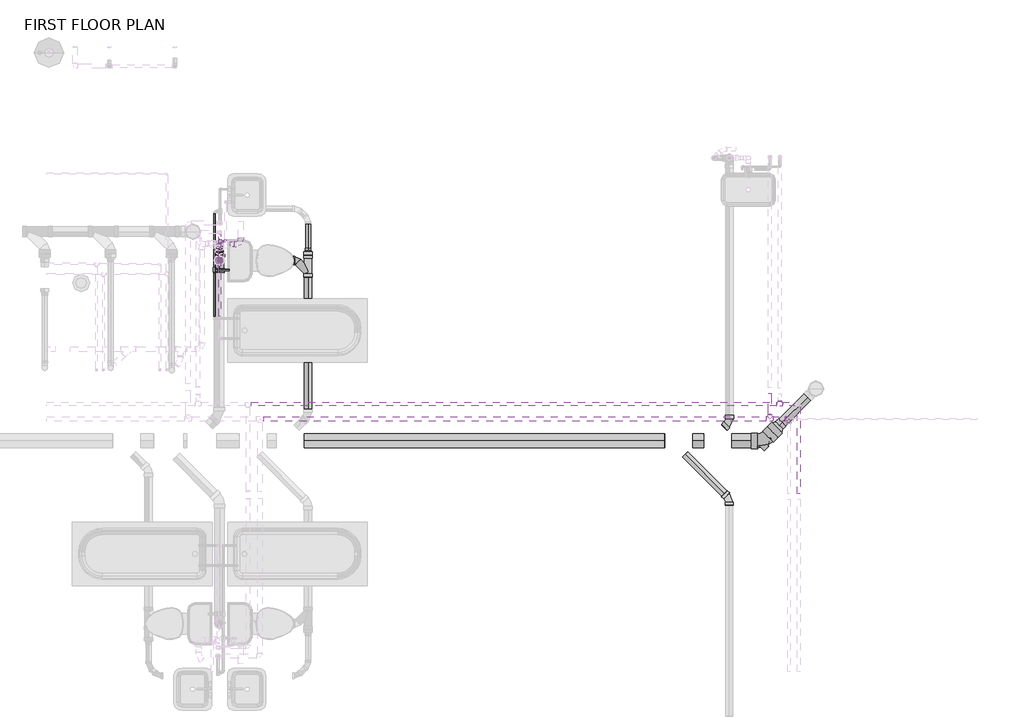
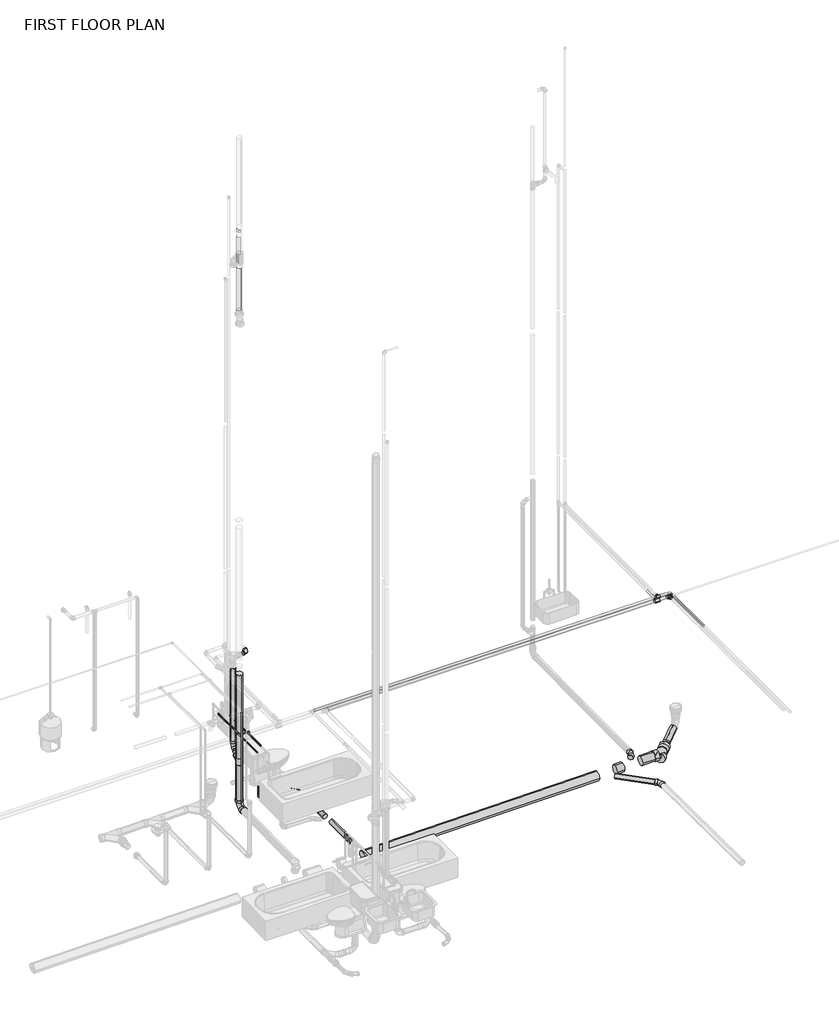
# One storey, part 26 of 29: 31 pipe segments, 27 pipe fittings.
"""IFC4 building model written with IfcOpenShell, lengths in millimetres."""

from ifc_helpers import new_model, si_unit, point, frame, frame_2d, origin, place, context, project, spatial, circle_curve, trimmed, segment, composite_curve, outline, extrude, transform, mapped, element, save
from components import bend_pvc_sch_40_dwv_standard_679b6376, bend_pvc_sch_40_dwv_standard_e6a60135, bend_pvc_sch_40_dwv_standard_75fad665, bend_pvc_sch_40_dwv_standard_3c520073, bend_pvc_sch_40_dwv_standard_56c8873b, bend_pvc_sch_40_dwv_standard_db659cf1, bend_pvc_sch_40_dwv_standard_998a4097, pipe_elbow_copper_k_feaaf02c, pipe_tee_copper_k_36278b8a, pipe_tee_copper_k_7127fd44, pipe_tee_copper_k_ee363fbf, pipe_tee_copper_k_feafe2f1, pipe_tee_copper_k_0c7b4938, pipe_transition_copper_k_859ff352, pipe_transition_copper_k_b63fd5dd, pipe_transition_copper_k_83c73321, pipe_transition_copper_k_f5214087, pipe_transition_copper_k_f5fb5327, reducer_pvc_sch_40_dwv_standard_464ee0c2, reducer_pvc_sch_40_dwv_standard_80dbeaf5, reducer_pvc_sch_40_dwv_standard_1f0c87c7, reducer_pvc_sch_40_dwv_standard_a2860a8a, standard_544587f6

model = new_model("IFC4")

# Units and contexts
model_context = context("Model", 3, world=origin())
ifc_project = project(units=[si_unit("LENGTHUNIT", "METRE", prefix="MILLI")], contexts=[model_context])

# Site, building, storey
site = spatial("IfcSite", under=ifc_project)
building = spatial("IfcBuilding", under=site)
storey = spatial("IfcBuildingStorey", under=building, Name="FIRST FLOOR PLAN", Elevation=0.0)

# Pipe fittings
placement = place(None, origin())
bend_pvc_sch_40_dwv_standard_shape = bend_pvc_sch_40_dwv_standard_679b6376(model_context)
element("IfcPipeFitting", 1, ObjectType="Bend - PVC - Sch 40 - DWV : Standard", at=placement, inside=storey, context=model_context, shape_type="MappedRepresentation", body=[
    mapped(bend_pvc_sch_40_dwv_standard_shape, transform((23061.4905896, 4822.5408658, -317.1000744), x_axis=(0.0, 0.999957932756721, -0.009172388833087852), y_axis=(-0.999999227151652, -1.1403666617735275e-05, -0.001243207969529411), z_axis=(-0.001243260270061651, 0.009172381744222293, 0.9999571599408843))),
])
bend_pvc_sch_40_dwv_standard_2_shape = bend_pvc_sch_40_dwv_standard_e6a60135(model_context)
element("IfcPipeFitting", 2, ObjectType="Bend - PVC - Sch 40 - DWV : Standard", at=placement, inside=storey, context=model_context, shape_type="MappedRepresentation", body=[
    mapped(bend_pvc_sch_40_dwv_standard_2_shape, transform((17329.7876002, 7679.6073661, -378.4708934), x_axis=(0.0, -5.143823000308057e-07, -0.9999999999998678), y_axis=(1.0000000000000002, 5.358148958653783e-09, 0.0), z_axis=(5.3581489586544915e-09, -0.9999999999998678, 5.143823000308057e-07))),
])
bend_pvc_sch_40_dwv_standard_3_shape = bend_pvc_sch_40_dwv_standard_75fad665(model_context)
element("IfcPipeFitting", 3, ObjectType="Bend - PVC - Sch 40 - DWV : Standard", at=placement, inside=storey, context=model_context, shape_type="MappedRepresentation", body=[
    mapped(bend_pvc_sch_40_dwv_standard_3_shape, transform((23062.493191, 5738.8483749, -314.5853984), x_axis=(0.7070392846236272, 0.707000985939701, 0.01565426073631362), y_axis=(-0.7070553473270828, 0.7071531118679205, -0.0026855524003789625), z_axis=(-0.012968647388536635, -0.009169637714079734, 0.9998738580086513))),
])
bend_pvc_sch_40_dwv_standard_4_shape = bend_pvc_sch_40_dwv_standard_3c520073(model_context)
element("IfcPipeFitting", 4, ObjectType="Bend - PVC - Sch 40 - DWV : Standard", at=placement, inside=storey, context=model_context, shape_type="MappedRepresentation", body=[
    mapped(bend_pvc_sch_40_dwv_standard_4_shape, transform((23473.9531255, 5514.0228988, -312.9355922), x_axis=(0.9999457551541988, 0.0, 0.010415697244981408), y_axis=(0.00010775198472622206, 0.9999464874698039, -0.010344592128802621), z_axis=(-0.010415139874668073, 0.010345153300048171, 0.9998922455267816))),
])
bend_pvc_sch_40_dwv_standard_5_shape = bend_pvc_sch_40_dwv_standard_56c8873b(model_context)
element("IfcPipeFitting", 5, ObjectType="Bend - PVC - Sch 40 - DWV : Standard", at=placement, inside=storey, context=model_context, shape_type="MappedRepresentation", body=[
    mapped(bend_pvc_sch_40_dwv_standard_5_shape, transform((17196.3084875, 7876.8887644, 2438.3990858), x_axis=(0.9999989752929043, 0.0, -0.0014315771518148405), y_axis=(-1.2572894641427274e-08, 0.9999999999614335, -8.782538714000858e-06), z_axis=(0.0014315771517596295, 8.782547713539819e-06, 0.9999989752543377))),
])
bend_pvc_sch_40_dwv_standard_6_shape = bend_pvc_sch_40_dwv_standard_db659cf1(model_context)
element("IfcPipeFitting", 6, ObjectType="Bend - PVC - Sch 40 - DWV : Standard", at=placement, inside=storey, context=model_context, shape_type="MappedRepresentation", body=[
    mapped(bend_pvc_sch_40_dwv_standard_6_shape, transform((16935.7559337, 7876.8887644, 731.8365858), x_axis=(0.0, 0.0, -1.0), y_axis=(0.0, -1.0, 0.0), z_axis=(-1.0, 0.0, 0.0))),
])
bend_pvc_sch_40_dwv_standard_7_shape = bend_pvc_sch_40_dwv_standard_998a4097(model_context)
element("IfcPipeFitting", 7, ObjectType="Bend - PVC - Sch 40 - DWV : Standard", at=placement, inside=storey, context=model_context, shape_type="MappedRepresentation", body=[
    mapped(bend_pvc_sch_40_dwv_standard_7_shape, transform((16935.7564169, 7679.2137881, -360.3657056), x_axis=(0.0, 0.0, -1.0), y_axis=(0.0, -1.0, 0.0), z_axis=(-1.0, 0.0, 0.0))),
])
pipe_elbow_copper_k_shape = pipe_elbow_copper_k_feaaf02c(model_context)
element("IfcPipeFitting", 8, ObjectType="Pipe Elbow : Copper- K", at=placement, inside=storey, context=model_context, shape_type="MappedRepresentation", body=[
    mapped(pipe_elbow_copper_k_shape, transform((17010.9709875, 7910.5468309, 1219.2), x_axis=(1.0, 0.0, 0.0), y_axis=(0.0, 1.0, 0.0), z_axis=(0.0, 0.0, 1.0))),
])
pipe_tee_copper_k_shape = pipe_tee_copper_k_36278b8a(model_context)
element("IfcPipeFitting", 9, ObjectType="Pipe Tee : Copper- K", at=placement, inside=storey, context=model_context, shape_type="MappedRepresentation", body=[
    mapped(pipe_tee_copper_k_shape, transform((23548.6084875, 5778.2175381, 2490.6882812), x_axis=(1.0, 0.0, 0.0), y_axis=(0.0, -1.0, 0.0), z_axis=(0.0, 0.0, -1.0))),
])
element("IfcPipeFitting", 10, ObjectType="Pipe Tee : Copper- K", at=placement, inside=storey, context=model_context, shape_type="MappedRepresentation", body=[
    mapped(pipe_tee_copper_k_shape, transform((23778.0391516, 5778.2175381, 2490.6882812), x_axis=(-1.0, 0.0, 0.0), y_axis=(0.0, 1.0, 0.0), z_axis=(0.0, 0.0, -1.0))),
])
pipe_tee_copper_k_2_shape = pipe_tee_copper_k_7127fd44(model_context)
element("IfcPipeFitting", 11, ObjectType="Pipe Tee : Copper- K", at=placement, inside=storey, context=model_context, shape_type="MappedRepresentation", body=[
    mapped(pipe_tee_copper_k_2_shape, transform((23669.3410297, 5956.0175381, 2413.0), x_axis=(1.0, 0.0, 0.0), y_axis=(0.0, -1.0, 0.0), z_axis=(0.0, 0.0, -1.0))),
])
pipe_tee_copper_k_3_shape = pipe_tee_copper_k_ee363fbf(model_context)
element("IfcPipeFitting", 12, ObjectType="Pipe Tee : Copper- K", at=placement, inside=storey, context=model_context, shape_type="MappedRepresentation", body=[
    mapped(pipe_tee_copper_k_3_shape, transform((16942.7084875, 7910.5468309, 1219.2), x_axis=(0.0, 1.0, 0.0), y_axis=(-1.0, 0.0, 0.0), z_axis=(0.0, 0.0, 1.0))),
])
pipe_tee_copper_k_4_shape = pipe_tee_copper_k_feafe2f1(model_context)
element("IfcPipeFitting", 13, ObjectType="Pipe Tee : Copper- K", at=placement, inside=storey, context=model_context, shape_type="MappedRepresentation", body=[
    mapped(pipe_tee_copper_k_4_shape, transform((16879.2084875, 7567.5498426, 1117.6), x_axis=(0.0, 1.0, 0.0), y_axis=(-1.0, 0.0, 0.0), z_axis=(0.0, 0.0, 1.0))),
])
pipe_tee_copper_k_5_shape = pipe_tee_copper_k_0c7b4938(model_context)
element("IfcPipeFitting", 14, ObjectType="Pipe Tee : Copper- K", at=placement, inside=storey, context=model_context, shape_type="MappedRepresentation", body=[
    mapped(pipe_tee_copper_k_5_shape, transform((16935.7564169, 7679.2137881, 534.1616094), x_axis=(0.0, 0.0, 1.0), y_axis=(0.0, -1.0, 0.0), z_axis=(1.0, 0.0, 0.0))),
])
pipe_transition_copper_k_shape = pipe_transition_copper_k_859ff352(model_context)
element("IfcPipeFitting", 15, ObjectType="Pipe Transition : Copper- K", at=placement, inside=storey, context=model_context, shape_type="MappedRepresentation", body=[
    mapped(pipe_transition_copper_k_shape, transform((17010.9709875, 7931.1843309, 1219.2), x_axis=(0.0, 1.0, 0.0), y_axis=(-1.0, 0.0, 0.0), z_axis=(0.0, 0.0, 1.0))),
])
pipe_transition_copper_k_2_shape = pipe_transition_copper_k_b63fd5dd(model_context)
element("IfcPipeFitting", 16, ObjectType="Pipe Transition : Copper- K", at=placement, inside=storey, context=model_context, shape_type="MappedRepresentation", body=[
    mapped(pipe_transition_copper_k_2_shape, transform((16909.3709875, 7567.5498426, 1117.6), x_axis=(1.0, 0.0, 0.0), y_axis=(0.0, 1.0, 0.0), z_axis=(0.0, 0.0, 1.0))),
])
element("IfcPipeFitting", 17, ObjectType="Pipe Transition : Copper- K", at=placement, inside=storey, context=model_context, shape_type="MappedRepresentation", body=[
    mapped(pipe_transition_copper_k_2_shape, transform((16879.2084875, 7537.3873426, 1117.6), x_axis=(0.0, -1.0, 0.0), y_axis=(1.0, 0.0, 0.0), z_axis=(0.0, 0.0, 1.0))),
])
pipe_transition_copper_k_3_shape = pipe_transition_copper_k_83c73321(model_context)
element("IfcPipeFitting", 18, ObjectType="Pipe Transition : Copper- K", at=placement, inside=storey, context=model_context, shape_type="MappedRepresentation", body=[
    mapped(pipe_transition_copper_k_3_shape, transform((23548.6084875, 5821.0800381, 2490.6882812), x_axis=(0.0, 1.0, 0.0), y_axis=(-1.0, 0.0, 0.0), z_axis=(0.0, 0.0, 1.0))),
])
element("IfcPipeFitting", 19, ObjectType="Pipe Transition : Copper- K", at=placement, inside=storey, context=model_context, shape_type="MappedRepresentation", body=[
    mapped(pipe_transition_copper_k_3_shape, transform((23778.0391516, 5735.3550381, 2490.6882812), x_axis=(0.0, -1.0, 0.0), y_axis=(1.0, 0.0, 0.0), z_axis=(0.0, 0.0, 1.0))),
])
pipe_transition_copper_k_4_shape = pipe_transition_copper_k_f5214087(model_context)
element("IfcPipeFitting", 20, ObjectType="Pipe Transition : Copper- K", at=placement, inside=storey, context=model_context, shape_type="MappedRepresentation", body=[
    mapped(pipe_transition_copper_k_4_shape, transform((16879.2084875, 7601.2842176, 1117.6), x_axis=(0.0, -1.0, 0.0), y_axis=(1.0, 0.0, 0.0), z_axis=(0.0, 0.0, 1.0))),
])
pipe_transition_copper_k_5_shape = pipe_transition_copper_k_f5fb5327(model_context)
element("IfcPipeFitting", 21, ObjectType="Pipe Transition : Copper- K", at=placement, inside=storey, context=model_context, shape_type="MappedRepresentation", body=[
    mapped(pipe_transition_copper_k_5_shape, transform((23669.3410297, 5992.5300381, 2413.0), x_axis=(0.0, 1.0, 0.0), y_axis=(-1.0, 0.0, 0.0), z_axis=(0.0, 0.0, 1.0))),
])
reducer_pvc_sch_40_dwv_standard_shape = reducer_pvc_sch_40_dwv_standard_464ee0c2(model_context)
element("IfcPipeFitting", 22, ObjectType="Reducer - PVC - Sch 40 - DWV : Standard", at=placement, inside=storey, context=model_context, shape_type="MappedRepresentation", body=[
    mapped(reducer_pvc_sch_40_dwv_standard_shape, transform((18002.874163, 7746.7054047, -382.3658032), x_axis=(0.0, 0.9999457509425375, 0.010416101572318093), y_axis=(-0.9999457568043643, -0.00010848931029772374, 0.010414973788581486), z_axis=(0.01041553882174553, -0.010415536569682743, 0.999891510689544))),
])
reducer_pvc_sch_40_dwv_standard_2_shape = reducer_pvc_sch_40_dwv_standard_80dbeaf5(model_context)
element("IfcPipeFitting", 23, ObjectType="Reducer - PVC - Sch 40 - DWV : Standard", at=placement, inside=storey, context=model_context, shape_type="MappedRepresentation", body=[
    mapped(reducer_pvc_sch_40_dwv_standard_2_shape, transform((17805.2468447, 7679.607384, -380.7235247), x_axis=(-0.9999457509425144, -2.1621181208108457e-07, 0.01041610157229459), y_axis=(-0.00010827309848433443, -0.9999457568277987, -0.010414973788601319), z_axis=(0.010415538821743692, -0.010415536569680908, 0.9998915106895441))),
])
reducer_pvc_sch_40_dwv_standard_3_shape = reducer_pvc_sch_40_dwv_standard_1f0c87c7(model_context)
element("IfcPipeFitting", 24, ObjectType="Reducer - PVC - Sch 40 - DWV : Standard", at=placement, inside=storey, context=model_context, shape_type="MappedRepresentation", body=[
    mapped(reducer_pvc_sch_40_dwv_standard_3_shape, transform((23418.9271042, 5458.6441148, -348.2136007), x_axis=(0.7070684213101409, 0.7070684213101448, 0.010416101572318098), y_axis=(-0.010416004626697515, -0.004314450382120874, 0.9999364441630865), z_axis=(0.7070684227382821, -0.7071319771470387, 0.0043142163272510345))),
])
element("IfcPipeFitting", 25, ObjectType="Reducer - PVC - Sch 40 - DWV : Standard", at=placement, inside=storey, context=model_context, shape_type="MappedRepresentation", body=[
    mapped(reducer_pvc_sch_40_dwv_standard_3_shape, transform((23579.73791, 5619.8017229, -312.9281262), x_axis=(0.7071267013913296, 0.7070868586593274, 4.990693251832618e-05), y_axis=(-0.7070101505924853, 0.7070510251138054, -0.014679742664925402), z_axis=(-0.010415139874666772, 0.010345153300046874, 0.9998922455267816))),
])
reducer_pvc_sch_40_dwv_standard_4_shape = reducer_pvc_sch_40_dwv_standard_a2860a8a(model_context)
element("IfcPipeFitting", 26, ObjectType="Reducer - PVC - Sch 40 - DWV : Standard", at=placement, inside=storey, context=model_context, shape_type="MappedRepresentation", body=[
    mapped(reducer_pvc_sch_40_dwv_standard_4_shape, transform((16935.7564169, 7727.4826647, 582.4304861), x_axis=(0.0, 0.7071067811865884, 0.7071067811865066), y_axis=(-1.0, 0.0, 0.0), z_axis=(0.0, -0.7071067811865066, 0.7071067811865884))),
])
standard_shape = standard_544587f6(model_context)
element("IfcPipeFitting", 27, ObjectType="GES Wye Combination with 8th Bend - PVC - Sch 40 - DWV : Standard", at=placement, inside=storey, context=model_context, shape_type="MappedRepresentation", body=[
    mapped(standard_shape, transform((18002.874163, 7679.6103702, -383.0647098), x_axis=(0.0, 0.9999457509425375, 0.010416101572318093), y_axis=(0.9999457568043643, 0.00010848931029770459, -0.010414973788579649), z_axis=(-0.010415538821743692, 0.010415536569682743, -0.999891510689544))),
])

# Pipe segments
element("IfcPipeSegment", 28, ObjectType="Copper", at=placement, inside=storey, context=model_context, shape_type="SweptSolid", body=[
    extrude(outline(composite_curve([segment(trimmed(circle_curve(frame_2d((5956.0175381, 2413.0)), 20.6375), [point((5976.6550381, 2413.0))], [point((5956.0175381, 2392.3625))], False, "CARTESIAN"), True, "CONTINUOUS"), segment(trimmed(circle_curve(frame_2d((5956.0175381, 2413.0)), 20.6375), [point((5956.0175381, 2392.3625))], [point((5935.3800381, 2413.0))], False, "CARTESIAN"), True, "CONTINUOUS"), segment(trimmed(circle_curve(frame_2d((5956.0175381, 2413.0)), 20.6375), [point((5935.3800381, 2413.0))], [point((5956.0175381, 2433.6375))], False, "CARTESIAN"), True, "CONTINUOUS"), segment(trimmed(circle_curve(frame_2d((5956.0175381, 2413.0)), 20.6375), [point((5956.0175381, 2433.6375))], [point((5976.6550381, 2413.0))], False, "CARTESIAN"), True, "CONTINUOUS")], self_intersect=False)), frame((23705.8535297, 0.0, 0.0), z_axis=(1.0, 0.0, 0.0), x_axis=(0.0, 1.0, 0.0)), (0.0, 0.0, 1.0), 154.0315581),
])
element("IfcPipeSegment", 29, ObjectType="Copper", at=placement, inside=storey, context=model_context, shape_type="SweptSolid", body=[
    extrude(outline(composite_curve([segment(trimmed(circle_curve(frame_2d((5778.2175381, 2490.6882812)), 26.9875), [point((5805.2050381, 2490.6882812))], [point((5778.2175381, 2463.7007812))], False, "CARTESIAN"), True, "CONTINUOUS"), segment(trimmed(circle_curve(frame_2d((5778.2175381, 2490.6882812)), 26.9875), [point((5778.2175381, 2463.7007812))], [point((5751.2300381, 2490.6882812))], False, "CARTESIAN"), True, "CONTINUOUS"), segment(trimmed(circle_curve(frame_2d((5778.2175381, 2490.6882812)), 26.9875), [point((5751.2300381, 2490.6882812))], [point((5778.2175381, 2517.6757812))], False, "CARTESIAN"), True, "CONTINUOUS"), segment(trimmed(circle_curve(frame_2d((5778.2175381, 2490.6882812)), 26.9875), [point((5778.2175381, 2517.6757812))], [point((5805.2050381, 2490.6882812))], False, "CARTESIAN"), True, "CONTINUOUS")], self_intersect=False)), frame((17467.3709875, 0.0, 0.0), z_axis=(1.0, 0.0, 0.0), x_axis=(0.0, 1.0, 0.0)), (0.0, 0.0, 1.0), 6038.375),
])
element("IfcPipeSegment", 30, ObjectType="Copper", at=placement, inside=storey, context=model_context, shape_type="SweptSolid", body=[
    extrude(outline(composite_curve([segment(trimmed(circle_curve(frame_2d((5956.0175381, 2413.0)), 20.6375), [point((5976.6550381, 2413.0))], [point((5956.0175381, 2392.3625))], False, "CARTESIAN"), True, "CONTINUOUS"), segment(trimmed(circle_curve(frame_2d((5956.0175381, 2413.0)), 20.6375), [point((5956.0175381, 2392.3625))], [point((5935.3800381, 2413.0))], False, "CARTESIAN"), True, "CONTINUOUS"), segment(trimmed(circle_curve(frame_2d((5956.0175381, 2413.0)), 20.6375), [point((5935.3800381, 2413.0))], [point((5956.0175381, 2433.6375))], False, "CARTESIAN"), True, "CONTINUOUS"), segment(trimmed(circle_curve(frame_2d((5956.0175381, 2413.0)), 20.6375), [point((5956.0175381, 2433.6375))], [point((5976.6550381, 2413.0))], False, "CARTESIAN"), True, "CONTINUOUS")], self_intersect=False)), frame((17320.2023661, 0.0, 0.0), z_axis=(1.0, 0.0, 0.0), x_axis=(0.0, 1.0, 0.0)), (0.0, 0.0, 1.0), 6312.6261636),
])
element("IfcPipeSegment", 31, ObjectType="Copper", at=placement, inside=storey, context=model_context, shape_type="SweptSolid", body=[
    extrude(outline(composite_curve([segment(trimmed(circle_curve(frame_2d((7910.5468309, 1219.2)), 11.1125), [point((7899.4343309, 1219.2))], [point((7910.5468309, 1230.3125))], False, "CARTESIAN"), True, "CONTINUOUS"), segment(trimmed(circle_curve(frame_2d((7910.5468309, 1219.2)), 11.1125), [point((7910.5468309, 1230.3125))], [point((7921.6593309, 1219.2))], False, "CARTESIAN"), True, "CONTINUOUS"), segment(trimmed(circle_curve(frame_2d((7910.5468309, 1219.2)), 11.1125), [point((7921.6593309, 1219.2))], [point((7910.5468309, 1208.0875))], False, "CARTESIAN"), True, "CONTINUOUS"), segment(trimmed(circle_curve(frame_2d((7910.5468309, 1219.2)), 11.1125), [point((7910.5468309, 1208.0875))], [point((7899.4343309, 1219.2))], False, "CARTESIAN"), True, "CONTINUOUS")], self_intersect=False)), frame((16969.6959875, 0.0, 0.0), z_axis=(1.0, 0.0, 0.0), x_axis=(0.0, 1.0, 0.0)), (0.0, 0.0, 1.0), 20.6375),
])
element("IfcPipeSegment", 32, ObjectType="Copper", at=placement, inside=storey, context=model_context, shape_type="SweptSolid", body=[
    extrude(outline(composite_curve([segment(trimmed(circle_curve(frame_2d((1219.2, 16942.7084875)), 11.1125), [point((1219.2, 16953.8209875))], [point((1230.3125, 16942.7084875))], False, "CARTESIAN"), True, "CONTINUOUS"), segment(trimmed(circle_curve(frame_2d((1219.2, 16942.7084875)), 11.1125), [point((1230.3125, 16942.7084875))], [point((1219.2, 16931.5959875))], False, "CARTESIAN"), True, "CONTINUOUS"), segment(trimmed(circle_curve(frame_2d((1219.2, 16942.7084875)), 11.1125), [point((1219.2, 16931.5959875))], [point((1208.0875, 16942.7084875))], False, "CARTESIAN"), True, "CONTINUOUS"), segment(trimmed(circle_curve(frame_2d((1219.2, 16942.7084875)), 11.1125), [point((1208.0875, 16942.7084875))], [point((1219.2, 16953.8209875))], False, "CARTESIAN"), True, "CONTINUOUS")], self_intersect=False)), frame((0.0, 7937.5343309, 0.0), z_axis=(0.0, 1.0, 0.0), x_axis=(0.0, 0.0, 1.0)), (0.0, 0.0, 1.0), 62.9888322),
])
element("IfcPipeSegment", 33, ObjectType="Copper", at=placement, inside=storey, context=model_context, shape_type="SweptSolid", body=[
    extrude(outline(composite_curve([segment(trimmed(circle_curve(frame_2d((7567.5498426, 1117.6)), 7.9375), [point((7559.6123426, 1117.6))], [point((7567.5498426, 1125.5375))], False, "CARTESIAN"), True, "CONTINUOUS"), segment(trimmed(circle_curve(frame_2d((7567.5498426, 1117.6)), 7.9375), [point((7567.5498426, 1125.5375))], [point((7575.4873426, 1117.6))], False, "CARTESIAN"), True, "CONTINUOUS"), segment(trimmed(circle_curve(frame_2d((7567.5498426, 1117.6)), 7.9375), [point((7575.4873426, 1117.6))], [point((7567.5498426, 1109.6625))], False, "CARTESIAN"), True, "CONTINUOUS"), segment(trimmed(circle_curve(frame_2d((7567.5498426, 1117.6)), 7.9375), [point((7567.5498426, 1109.6625))], [point((7559.6123426, 1117.6))], False, "CARTESIAN"), True, "CONTINUOUS")], self_intersect=False)), frame((16916.5147375, 0.0, 0.0), z_axis=(1.0, 0.0, 0.0), x_axis=(0.0, 1.0, 0.0)), (0.0, 0.0, 1.0), 140.49375),
])
element("IfcPipeSegment", 34, ObjectType="Copper", at=placement, inside=storey, context=model_context, shape_type="SweptSolid", body=[
    extrude(outline(composite_curve([segment(trimmed(circle_curve(frame_2d((1117.6, 16879.2084875)), 11.1125), [point((1117.6, 16868.0959875))], [point((1106.4875, 16879.2084875))], False, "CARTESIAN"), True, "CONTINUOUS"), segment(trimmed(circle_curve(frame_2d((1117.6, 16879.2084875)), 11.1125), [point((1106.4875, 16879.2084875))], [point((1117.6, 16890.3209875))], False, "CARTESIAN"), True, "CONTINUOUS"), segment(trimmed(circle_curve(frame_2d((1117.6, 16879.2084875)), 11.1125), [point((1117.6, 16890.3209875))], [point((1128.7125, 16879.2084875))], False, "CARTESIAN"), True, "CONTINUOUS"), segment(trimmed(circle_curve(frame_2d((1117.6, 16879.2084875)), 11.1125), [point((1128.7125, 16879.2084875))], [point((1117.6, 16868.0959875))], False, "CARTESIAN"), True, "CONTINUOUS")], self_intersect=False)), frame((0.0, 7601.2842176, 0.0), z_axis=(0.0, 1.0, 0.0), x_axis=(0.0, 0.0, 1.0)), (0.0, 0.0, 1.0), 649.1875732),
])
element("IfcPipeSegment", 35, ObjectType="Copper", at=placement, inside=storey, context=model_context, shape_type="SweptSolid", body=[
    extrude(outline(composite_curve([segment(trimmed(circle_curve(frame_2d((1219.2, 16942.7084875)), 11.1125), [point((1219.2, 16931.5959875))], [point((1208.0875, 16942.7084875))], False, "CARTESIAN"), True, "CONTINUOUS"), segment(trimmed(circle_curve(frame_2d((1219.2, 16942.7084875)), 11.1125), [point((1208.0875, 16942.7084875))], [point((1219.2, 16953.8209875))], False, "CARTESIAN"), True, "CONTINUOUS"), segment(trimmed(circle_curve(frame_2d((1219.2, 16942.7084875)), 11.1125), [point((1219.2, 16953.8209875))], [point((1230.3125, 16942.7084875))], False, "CARTESIAN"), True, "CONTINUOUS"), segment(trimmed(circle_curve(frame_2d((1219.2, 16942.7084875)), 11.1125), [point((1230.3125, 16942.7084875))], [point((1219.2, 16931.5959875))], False, "CARTESIAN"), True, "CONTINUOUS")], self_intersect=False)), frame((0.0, 7013.009719, 0.0), z_axis=(0.0, 1.0, 0.0), x_axis=(0.0, 0.0, 1.0)), (0.0, 0.0, 1.0), 870.5496119),
])
element("IfcPipeSegment", 36, ObjectType="Copper", at=placement, inside=storey, context=model_context, shape_type="SweptSolid", body=[
    extrude(outline(composite_curve([segment(trimmed(circle_curve(frame_2d((1117.6, 16879.2084875)), 7.9375), [point((1117.6, 16871.2709875))], [point((1109.6625, 16879.2084875))], False, "CARTESIAN"), True, "CONTINUOUS"), segment(trimmed(circle_curve(frame_2d((1117.6, 16879.2084875)), 7.9375), [point((1109.6625, 16879.2084875))], [point((1117.6, 16887.1459875))], False, "CARTESIAN"), True, "CONTINUOUS"), segment(trimmed(circle_curve(frame_2d((1117.6, 16879.2084875)), 7.9375), [point((1117.6, 16887.1459875))], [point((1125.5375, 16879.2084875))], False, "CARTESIAN"), True, "CONTINUOUS"), segment(trimmed(circle_curve(frame_2d((1117.6, 16879.2084875)), 7.9375), [point((1125.5375, 16879.2084875))], [point((1117.6, 16871.2709875))], False, "CARTESIAN"), True, "CONTINUOUS")], self_intersect=False)), frame((0.0, 7003.484719, 0.0), z_axis=(0.0, 1.0, 0.0), x_axis=(0.0, 0.0, 1.0)), (0.0, 0.0, 1.0), 526.7588736),
])
element("IfcPipeSegment", 37, ObjectType="Copper", at=placement, inside=storey, context=model_context, shape_type="SweptSolid", body=[
    extrude(outline(composite_curve([segment(trimmed(circle_curve(frame_2d((2490.6882812, 23548.6084875)), 17.4625), [point((2490.6882812, 23566.0709875))], [point((2508.1507812, 23548.6084875))], False, "CARTESIAN"), True, "CONTINUOUS"), segment(trimmed(circle_curve(frame_2d((2490.6882812, 23548.6084875)), 17.4625), [point((2508.1507812, 23548.6084875))], [point((2490.6882812, 23531.1459875))], False, "CARTESIAN"), True, "CONTINUOUS"), segment(trimmed(circle_curve(frame_2d((2490.6882812, 23548.6084875)), 17.4625), [point((2490.6882812, 23531.1459875))], [point((2473.2257812, 23548.6084875))], False, "CARTESIAN"), True, "CONTINUOUS"), segment(trimmed(circle_curve(frame_2d((2490.6882812, 23548.6084875)), 17.4625), [point((2473.2257812, 23548.6084875))], [point((2490.6882812, 23566.0709875))], False, "CARTESIAN"), True, "CONTINUOUS")], self_intersect=False)), frame((0.0, 5834.5737881, 0.0), z_axis=(0.0, 1.0, 0.0), x_axis=(0.0, 0.0, 1.0)), (0.0, 0.0, 1.0), 253.377),
])
element("IfcPipeSegment", 38, ObjectType="Copper", at=placement, inside=storey, context=model_context, shape_type="SweptSolid", body=[
    extrude(outline(composite_curve([segment(trimmed(circle_curve(frame_2d((5778.2175381, 2490.6882812)), 26.9875), [point((5751.2300381, 2490.6882812))], [point((5778.2175381, 2517.6757812))], False, "CARTESIAN"), True, "CONTINUOUS"), segment(trimmed(circle_curve(frame_2d((5778.2175381, 2490.6882812)), 26.9875), [point((5778.2175381, 2517.6757812))], [point((5805.2050381, 2490.6882812))], False, "CARTESIAN"), True, "CONTINUOUS"), segment(trimmed(circle_curve(frame_2d((5778.2175381, 2490.6882812)), 26.9875), [point((5805.2050381, 2490.6882812))], [point((5778.2175381, 2463.7007812))], False, "CARTESIAN"), True, "CONTINUOUS"), segment(trimmed(circle_curve(frame_2d((5778.2175381, 2490.6882812)), 26.9875), [point((5778.2175381, 2463.7007812))], [point((5751.2300381, 2490.6882812))], False, "CARTESIAN"), True, "CONTINUOUS")], self_intersect=False)), frame((23591.4709875, 0.0, 0.0), z_axis=(1.0, 0.0, 0.0), x_axis=(0.0, 1.0, 0.0)), (0.0, 0.0, 1.0), 143.7056642),
])
element("IfcPipeSegment", 39, ObjectType="Copper", at=placement, inside=storey, context=model_context, shape_type="SweptSolid", body=[
    extrude(outline(composite_curve([segment(trimmed(circle_curve(frame_2d((2413.0, 23897.1913377)), 17.4625), [point((2413.0, 23879.7288377))], [point((2395.5375, 23897.1913377))], False, "CARTESIAN"), True, "CONTINUOUS"), segment(trimmed(circle_curve(frame_2d((2413.0, 23897.1913377)), 17.4625), [point((2395.5375, 23897.1913377))], [point((2413.0, 23914.6538377))], False, "CARTESIAN"), True, "CONTINUOUS"), segment(trimmed(circle_curve(frame_2d((2413.0, 23897.1913377)), 17.4625), [point((2413.0, 23914.6538377))], [point((2430.4625, 23897.1913377))], False, "CARTESIAN"), True, "CONTINUOUS"), segment(trimmed(circle_curve(frame_2d((2413.0, 23897.1913377)), 17.4625), [point((2430.4625, 23897.1913377))], [point((2413.0, 23879.7288377))], False, "CARTESIAN"), True, "CONTINUOUS")], self_intersect=False)), frame((0.0, 4879.1647881, 0.0), z_axis=(0.0, 1.0, 0.0), x_axis=(0.0, 0.0, 1.0)), (0.0, 0.0, 1.0), 1049.86525),
])
element("IfcPipeSegment", 40, ObjectType="PVC - SAN/STORM", at=placement, inside=storey, context=model_context, shape_type="SweptSolid", body=[
    extrude(outline(composite_curve([segment(trimmed(circle_curve(frame_2d((0.0, -44.45)), 44.45), [point((44.448795, -44.1226929))], [point((0.3273072, -88.8987949))], False, "CARTESIAN"), True, "CONTINUOUS"), segment(trimmed(circle_curve(frame_2d((0.0, -44.45)), 44.45), [point((0.3273072, -88.8987949))], [point((-44.4487949, -44.7773072))], False, "CARTESIAN"), True, "CONTINUOUS"), segment(trimmed(circle_curve(frame_2d((0.0, -44.45)), 44.45), [point((-44.4487949, -44.7773072))], [point((-0.3273071, -0.0012051))], False, "CARTESIAN"), True, "CONTINUOUS"), segment(trimmed(circle_curve(frame_2d((0.0, -44.45)), 44.45), [point((-0.3273071, -0.0012051))], [point((44.448795, -44.1226929))], False, "CARTESIAN"), True, "CONTINUOUS")], self_intersect=False)), frame((22531.8350236, 5352.8215858, -278.1709122), z_axis=(0.7069793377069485, -0.7071958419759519, 0.007365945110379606), x_axis=(0.7072342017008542, 0.706940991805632, -0.0073632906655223)), (0.0, 0.0, 1.0), 666.6311115),
])
element("IfcPipeSegment", 41, ObjectType="PVC - SAN/STORM", at=placement, inside=storey, context=model_context, shape_type="SweptSolid", body=[
    extrude(outline(composite_curve([segment(trimmed(circle_curve(frame_2d((0.0, 84.1375)), 84.1375), [point((0.0, 0.0))], [point((-84.1375, 84.1375))], False, "CARTESIAN"), True, "CONTINUOUS"), segment(trimmed(circle_curve(frame_2d((0.0, 84.1375)), 84.1375), [point((-84.1375, 84.1375))], [point((0.0, 168.275))], False, "CARTESIAN"), True, "CONTINUOUS"), segment(trimmed(circle_curve(frame_2d((0.0, 84.1375)), 84.1375), [point((0.0, 168.275))], [point((84.1374999, 84.1375))], False, "CARTESIAN"), True, "CONTINUOUS"), segment(trimmed(circle_curve(frame_2d((0.0, 84.1375)), 84.1375), [point((84.1374999, 84.1375))], [point((0.0, 0.0))], False, "CARTESIAN"), True, "CONTINUOUS")], self_intersect=False)), frame((23091.6417578, 5429.8853988, -316.9178477), z_axis=(0.9999457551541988, 0.0, 0.010415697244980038), x_axis=(0.010415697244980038, 0.0, -0.9999457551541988)), (0.0, 0.0, 1.0), 232.7340448),
])
element("IfcPipeSegment", 42, ObjectType="PVC - SAN/STORM", at=placement, inside=storey, context=model_context, shape_type="SweptSolid", body=[
    extrude(outline(composite_curve([segment(trimmed(circle_curve(frame_2d((0.0, -44.4499999)), 44.45), [point((-44.45, -44.4499999))], [point((1e-07, 0.0))], False, "CARTESIAN"), True, "CONTINUOUS"), segment(trimmed(circle_curve(frame_2d((0.0, -44.4499999)), 44.45), [point((1e-07, 0.0))], [point((44.45, -44.45))], False, "CARTESIAN"), True, "CONTINUOUS"), segment(trimmed(circle_curve(frame_2d((0.0, -44.4499999)), 44.45), [point((44.45, -44.45))], [point((-1e-07, -88.9))], False, "CARTESIAN"), True, "CONTINUOUS"), segment(trimmed(circle_curve(frame_2d((0.0, -44.4499999)), 44.45), [point((-1e-07, -88.9))], [point((-44.45, -44.4499999))], False, "CARTESIAN"), True, "CONTINUOUS")], self_intersect=False)), frame((17329.7876002, 7635.1574258, -262.57249), z_axis=(4.0741766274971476e-05, -4.041884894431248e-05, 0.9999999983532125), x_axis=(-0.9999999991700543, -1.6467360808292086e-09, 4.074176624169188e-05)), (0.0, 0.0, 1.0), 315.3646206),
])
element("IfcPipeSegment", 43, ObjectType="PVC - SAN/STORM", at=placement, inside=storey, context=model_context, shape_type="SweptSolid", body=[
    extrude(outline(composite_curve([segment(trimmed(circle_curve(frame_2d((0.0, -44.45)), 44.45), [point((0.0, -88.9))], [point((-44.4500001, -44.45))], False, "CARTESIAN"), True, "CONTINUOUS"), segment(trimmed(circle_curve(frame_2d((0.0, -44.45)), 44.45), [point((-44.4500001, -44.45))], [point((0.0, 0.0))], False, "CARTESIAN"), True, "CONTINUOUS"), segment(trimmed(circle_curve(frame_2d((0.0, -44.45)), 44.45), [point((0.0, 0.0))], [point((44.45, -44.45))], False, "CARTESIAN"), True, "CONTINUOUS"), segment(trimmed(circle_curve(frame_2d((0.0, -44.45)), 44.45), [point((44.45, -44.45))], [point((0.0, -88.9))], False, "CARTESIAN"), True, "CONTINUOUS")], self_intersect=False)), frame((17722.4311197, 7724.0573661, -382.56093), z_axis=(-0.9999457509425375, 0.0, 0.01041610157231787), x_axis=(0.01041610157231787, 0.0, 0.9999457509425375)), (0.0, 0.0, 1.0), 276.7646212),
])
element("IfcPipeSegment", 44, ObjectType="PVC - SAN/STORM", at=placement, inside=storey, context=model_context, shape_type="SweptSolid", body=[
    extrude(outline(composite_curve([segment(trimmed(circle_curve(frame_2d((0.0, -30.1625)), 30.1625), [point((-30.1625, -30.1625))], [point((0.0, 0.0))], False, "CARTESIAN"), True, "CONTINUOUS"), segment(trimmed(circle_curve(frame_2d((0.0, -30.1625)), 30.1625), [point((0.0, 0.0))], [point((30.1625, -30.1625))], False, "CARTESIAN"), True, "CONTINUOUS"), segment(trimmed(circle_curve(frame_2d((0.0, -30.1625)), 30.1625), [point((30.1625, -30.1625))], [point((0.0, -60.3250001))], False, "CARTESIAN"), True, "CONTINUOUS"), segment(trimmed(circle_curve(frame_2d((0.0, -30.1625)), 30.1625), [point((0.0, -60.3250001))], [point((-30.1625, -30.1625))], False, "CARTESIAN"), True, "CONTINUOUS")], self_intersect=False)), frame((18002.874163, 7826.3902744, -411.6998889), z_axis=(0.0, 0.9999457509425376, 0.010416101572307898), x_axis=(1.0, 0.0, 0.0)), (0.0, 0.0, 1.0), 296.2674554),
])
element("IfcPipeSegment", 45, ObjectType="PVC - SAN/STORM", at=placement, inside=storey, context=model_context, shape_type="SweptSolid", body=[
    extrude(outline(composite_curve([segment(trimmed(circle_curve(frame_2d((0.0, 44.4500001)), 44.45), [point((-44.45, 44.4499944))], [point((-5.6e-06, 88.9000001))], False, "CARTESIAN"), True, "CONTINUOUS"), segment(trimmed(circle_curve(frame_2d((0.0, 44.4500001)), 44.45), [point((-5.6e-06, 88.9000001))], [point((44.45, 44.4500057))], False, "CARTESIAN"), True, "CONTINUOUS"), segment(trimmed(circle_curve(frame_2d((0.0, 44.4500001)), 44.45), [point((44.45, 44.4500057))], [point((5.6e-06, 0.0))], False, "CARTESIAN"), True, "CONTINUOUS"), segment(trimmed(circle_curve(frame_2d((0.0, 44.4500001)), 44.45), [point((5.6e-06, 0.0))], [point((-44.45, 44.4499944))], False, "CARTESIAN"), True, "CONTINUOUS")], self_intersect=False)), frame((18002.6372446, 6581.864763, -416.6470758), z_axis=(2.1275079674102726e-05, -0.9999822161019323, 0.005963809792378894), x_axis=(0.9999999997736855, 2.1274701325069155e-05, -1.2688052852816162e-07)), (0.0, 0.0, 1.0), 686.4705735),
])
element("IfcPipeSegment", 46, ObjectType="PVC - SAN/STORM", at=placement, inside=storey, context=model_context, shape_type="SweptSolid", body=[
    extrude(outline(composite_curve([segment(trimmed(circle_curve(frame_2d((0.0, -44.45)), 44.45), [point((-44.45, -44.45))], [point((0.0, 0.0))], False, "CARTESIAN"), True, "CONTINUOUS"), segment(trimmed(circle_curve(frame_2d((0.0, -44.45)), 44.45), [point((0.0, 0.0))], [point((44.45, -44.45))], False, "CARTESIAN"), True, "CONTINUOUS"), segment(trimmed(circle_curve(frame_2d((0.0, -44.45)), 44.45), [point((44.45, -44.45))], [point((0.0, -88.8999999))], False, "CARTESIAN"), True, "CONTINUOUS"), segment(trimmed(circle_curve(frame_2d((0.0, -44.45)), 44.45), [point((0.0, -88.8999999))], [point((-44.45, -44.45))], False, "CARTESIAN"), True, "CONTINUOUS")], self_intersect=False)), frame((18002.874163, 6788.2451082, -436.8021761), z_axis=(0.0, 0.9999457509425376, 0.010416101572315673), x_axis=(1.0, 0.0, 0.0)), (0.0, 0.0, 1.0), 695.0439157),
])
element("IfcPipeSegment", 47, ObjectType="PVC - SAN/STORM", at=placement, inside=storey, context=model_context, shape_type="SweptSolid", body=[
    extrude(outline(composite_curve([segment(trimmed(circle_curve(frame_2d((0.0, -44.45)), 44.45), [point((-44.444554, -43.7542157))], [point((0.6957844, -0.0054459))], False, "CARTESIAN"), True, "CONTINUOUS"), segment(trimmed(circle_curve(frame_2d((0.0, -44.45)), 44.45), [point((0.6957844, -0.0054459))], [point((44.444554, -45.1457843))], False, "CARTESIAN"), True, "CONTINUOUS"), segment(trimmed(circle_curve(frame_2d((0.0, -44.45)), 44.45), [point((44.444554, -45.1457843))], [point((-0.6957843, -88.894554))], False, "CARTESIAN"), True, "CONTINUOUS"), segment(trimmed(circle_curve(frame_2d((0.0, -44.45)), 44.45), [point((-0.6957843, -88.894554))], [point((-44.444554, -43.7542157))], False, "CARTESIAN"), True, "CONTINUOUS")], self_intersect=False)), frame((22999.2847164, 5676.6272852, -360.4239788), z_axis=(0.7070392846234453, 0.7070009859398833, 0.015654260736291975), x_axis=(0.7071742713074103, -0.7068660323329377, -0.015651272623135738)), (0.0, 0.0, 1.0), 6.8488156),
])
element("IfcPipeSegment", 48, ObjectType="PVC - SAN/STORM", at=placement, inside=storey, context=model_context, shape_type="SweptSolid", body=[
    extrude(outline(composite_curve([segment(trimmed(circle_curve(frame_2d((0.0, 84.1375)), 84.1375), [point((0.0, 0.0))], [point((-84.1375, 84.1375))], False, "CARTESIAN"), True, "CONTINUOUS"), segment(trimmed(circle_curve(frame_2d((0.0, 84.1375)), 84.1375), [point((-84.1375, 84.1375))], [point((0.0, 168.275))], False, "CARTESIAN"), True, "CONTINUOUS"), segment(trimmed(circle_curve(frame_2d((0.0, 84.1375)), 84.1375), [point((0.0, 168.275))], [point((84.1375, 84.1375))], False, "CARTESIAN"), True, "CONTINUOUS"), segment(trimmed(circle_curve(frame_2d((0.0, 84.1375)), 84.1375), [point((84.1375, 84.1375))], [point((0.0, 0.0))], False, "CARTESIAN"), True, "CONTINUOUS")], self_intersect=False)), frame((22624.206472, 5429.8853988, -321.7867762), z_axis=(0.9999457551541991, 0.0, 0.010415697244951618), x_axis=(0.010415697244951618, 0.0, -0.9999457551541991)), (0.0, 0.0, 1.0), 130.9106431),
])
element("IfcPipeSegment", 49, ObjectType="PVC - SAN/STORM", at=placement, inside=storey, context=model_context, shape_type="SweptSolid", body=[
    extrude(outline(composite_curve([segment(trimmed(circle_curve(frame_2d((-1e-07, 57.15)), 57.15), [point((57.1499999, 57.1471477))], [point((-0.0028524, 0.0))], False, "CARTESIAN"), True, "CONTINUOUS"), segment(trimmed(circle_curve(frame_2d((-1e-07, 57.15)), 57.15), [point((-0.0028524, 0.0))], [point((-57.15, 57.1528524))], False, "CARTESIAN"), True, "CONTINUOUS"), segment(trimmed(circle_curve(frame_2d((-1e-07, 57.15)), 57.15), [point((-57.15, 57.1528524))], [point((0.0028523, 114.2999999))], False, "CARTESIAN"), True, "CONTINUOUS"), segment(trimmed(circle_curve(frame_2d((-1e-07, 57.15)), 57.15), [point((0.0028523, 114.2999999))], [point((57.1499999, 57.1471477))], False, "CARTESIAN"), True, "CONTINUOUS")], self_intersect=False)), frame((23696.4845284, 5736.5377295, -255.7698867), z_axis=(0.7071267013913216, 0.7070868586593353, 4.990693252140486e-05), x_axis=(0.7070868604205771, -0.7071266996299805, -4.9909744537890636e-05)), (0.0, 0.0, 1.0), 431.2091259),
])
element("IfcPipeSegment", 50, ObjectType="PVC - SAN/STORM", at=placement, inside=storey, context=model_context, shape_type="SweptSolid", body=[
    extrude(outline(composite_curve([segment(trimmed(circle_curve(frame_2d((0.0, -84.1375)), 84.1375), [point((0.0, 0.0))], [point((84.1375, -84.1375))], False, "CARTESIAN"), True, "CONTINUOUS"), segment(trimmed(circle_curve(frame_2d((0.0, -84.1375)), 84.1375), [point((84.1375, -84.1375))], [point((0.0, -168.275))], False, "CARTESIAN"), True, "CONTINUOUS"), segment(trimmed(circle_curve(frame_2d((0.0, -84.1375)), 84.1375), [point((0.0, -168.275))], [point((-84.1374999, -84.1375))], False, "CARTESIAN"), True, "CONTINUOUS"), segment(trimmed(circle_curve(frame_2d((0.0, -84.1375)), 84.1375), [point((-84.1374999, -84.1375))], [point((0.0, 0.0))], False, "CARTESIAN"), True, "CONTINUOUS")], self_intersect=False)), frame((17957.5377695, 5598.1603988, -370.3960213), z_axis=(0.999945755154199, 0.0, 0.010415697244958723), x_axis=(0.010415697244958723, 0.0, -0.999945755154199)), (0.0, 0.0, 1.0), 4330.3718589),
])
element("IfcPipeSegment", 51, ObjectType="PVC - SAN/STORM", at=placement, inside=storey, context=model_context, shape_type="SweptSolid", body=[
    extrude(outline(composite_curve([segment(trimmed(circle_curve(frame_2d((0.0, 30.1625)), 30.1625), [point((-30.1625, 30.1625))], [point((0.0, 60.325))], False, "CARTESIAN"), True, "CONTINUOUS"), segment(trimmed(circle_curve(frame_2d((0.0, 30.1625)), 30.1625), [point((0.0, 60.325))], [point((30.1625, 30.1625))], False, "CARTESIAN"), True, "CONTINUOUS"), segment(trimmed(circle_curve(frame_2d((0.0, 30.1625)), 30.1625), [point((30.1625, 30.1625))], [point((0.0, 0.0))], False, "CARTESIAN"), True, "CONTINUOUS"), segment(trimmed(circle_curve(frame_2d((0.0, 30.1625)), 30.1625), [point((0.0, 0.0))], [point((-30.1625, 30.1625))], False, "CARTESIAN"), True, "CONTINUOUS")], self_intersect=False)), frame((17118.4711046, 7876.8887644, 2408.3479858), z_axis=(-0.9999992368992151, 0.0, 0.0012353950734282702), x_axis=(0.0, -1.0, 0.0)), (0.0, 0.0, 1.0), 47.8151082),
])
element("IfcPipeSegment", 52, ObjectType="PVC - SAN/STORM", at=placement, inside=storey, context=model_context, shape_type="SweptSolid", body=[
    extrude(outline(composite_curve([segment(trimmed(circle_curve(frame_2d((0.0, 44.45)), 44.45), [point((-44.45, 44.45))], [point((0.0, 88.9))], False, "CARTESIAN"), True, "CONTINUOUS"), segment(trimmed(circle_curve(frame_2d((0.0, 44.45)), 44.45), [point((0.0, 88.9))], [point((44.45, 44.45))], False, "CARTESIAN"), True, "CONTINUOUS"), segment(trimmed(circle_curve(frame_2d((0.0, 44.45)), 44.45), [point((44.45, 44.45))], [point((0.0, 0.0))], False, "CARTESIAN"), True, "CONTINUOUS"), segment(trimmed(circle_curve(frame_2d((0.0, 44.45)), 44.45), [point((0.0, 0.0))], [point((-44.45, 44.45))], False, "CARTESIAN"), True, "CONTINUOUS")], self_intersect=False)), frame((16935.7559337, 7634.7637913, 9329.2842978), z_axis=(0.0, -0.0003796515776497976, 0.9999999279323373), x_axis=(1.0, 0.0, 0.0)), (0.0, 0.0, 1.0), 828.4994319),
])
element("IfcPipeSegment", 53, ObjectType="PVC - SAN/STORM", at=placement, inside=storey, context=model_context, shape_type="SweptSolid", body=[
    extrude(outline(composite_curve([segment(trimmed(circle_curve(frame_2d((16935.7559337, 7679.2137881)), 44.45), [point((16891.3059337, 7679.2137881))], [point((16935.7559337, 7723.6637881))], False, "CARTESIAN"), True, "CONTINUOUS"), segment(trimmed(circle_curve(frame_2d((16935.7559337, 7679.2137881)), 44.45), [point((16935.7559337, 7723.6637881))], [point((16980.2059337, 7679.2137881))], False, "CARTESIAN"), True, "CONTINUOUS"), segment(trimmed(circle_curve(frame_2d((16935.7559337, 7679.2137881)), 44.45), [point((16980.2059337, 7679.2137881))], [point((16935.7559337, 7634.7637881))], False, "CARTESIAN"), True, "CONTINUOUS"), segment(trimmed(circle_curve(frame_2d((16935.7559337, 7679.2137881)), 44.45), [point((16935.7559337, 7634.7637881))], [point((16891.3059337, 7679.2137881))], False, "CARTESIAN"), True, "CONTINUOUS")], self_intersect=False)), frame((0.0, 0.0, 10869.9584975), z_axis=(0.0, 0.0, 1.0), x_axis=(1.0, 0.0, 0.0)), (0.0, 0.0, 1.0), 41.2749902),
])
element("IfcPipeSegment", 54, ObjectType="PVC - SAN/STORM", at=placement, inside=storey, context=model_context, shape_type="SweptSolid", body=[
    extrude(outline(composite_curve([segment(trimmed(circle_curve(frame_2d((16935.7559337, 7679.2137881)), 44.45), [point((16891.3059337, 7679.2137881))], [point((16935.7559337, 7723.6637881))], False, "CARTESIAN"), True, "CONTINUOUS"), segment(trimmed(circle_curve(frame_2d((16935.7559337, 7679.2137881)), 44.45), [point((16935.7559337, 7723.6637881))], [point((16980.2059337, 7679.2137881))], False, "CARTESIAN"), True, "CONTINUOUS"), segment(trimmed(circle_curve(frame_2d((16935.7559337, 7679.2137881)), 44.45), [point((16980.2059337, 7679.2137881))], [point((16935.7559337, 7634.7637881))], False, "CARTESIAN"), True, "CONTINUOUS"), segment(trimmed(circle_curve(frame_2d((16935.7559337, 7679.2137881)), 44.45), [point((16935.7559337, 7634.7637881))], [point((16891.3059337, 7679.2137881))], False, "CARTESIAN"), True, "CONTINUOUS")], self_intersect=False)), frame((0.0, 0.0, 10268.9255455), z_axis=(0.0, 0.0, 1.0), x_axis=(1.0, 0.0, 0.0)), (0.0, 0.0, 1.0), 489.907952),
])
element("IfcPipeSegment", 55, ObjectType="PVC - SAN/STORM", at=placement, inside=storey, context=model_context, shape_type="SweptSolid", body=[
    extrude(outline(composite_curve([segment(trimmed(circle_curve(frame_2d((16935.7564169, 7679.2137881)), 57.15), [point((16992.9064169, 7679.2137881))], [point((16935.7564169, 7622.0637881))], False, "CARTESIAN"), True, "CONTINUOUS"), segment(trimmed(circle_curve(frame_2d((16935.7564169, 7679.2137881)), 57.15), [point((16935.7564169, 7622.0637881))], [point((16878.6064169, 7679.2137881))], False, "CARTESIAN"), True, "CONTINUOUS"), segment(trimmed(circle_curve(frame_2d((16935.7564169, 7679.2137881)), 57.15), [point((16878.6064169, 7679.2137881))], [point((16935.7564169, 7736.3637881))], False, "CARTESIAN"), True, "CONTINUOUS"), segment(trimmed(circle_curve(frame_2d((16935.7564169, 7679.2137881)), 57.15), [point((16935.7564169, 7736.3637881))], [point((16992.9064169, 7679.2137881))], False, "CARTESIAN"), True, "CONTINUOUS")], self_intersect=False)), frame((0.0, 0.0, -217.4907056), z_axis=(0.0, 0.0, 1.0), x_axis=(1.0, 0.0, 0.0)), (0.0, 0.0, 1.0), 683.3898151),
])
element("IfcPipeSegment", 56, ObjectType="PVC - SAN/STORM", at=placement, inside=storey, context=model_context, shape_type="SweptSolid", body=[
    extrude(outline(composite_curve([segment(trimmed(circle_curve(frame_2d((16935.7559337, 7876.8887644)), 44.45), [point((16980.2059337, 7876.8887644))], [point((16935.7559337, 7832.4387644))], False, "CARTESIAN"), True, "CONTINUOUS"), segment(trimmed(circle_curve(frame_2d((16935.7559337, 7876.8887644)), 44.45), [point((16935.7559337, 7832.4387644))], [point((16891.3059337, 7876.8887644))], False, "CARTESIAN"), True, "CONTINUOUS"), segment(trimmed(circle_curve(frame_2d((16935.7559337, 7876.8887644)), 44.45), [point((16891.3059337, 7876.8887644))], [point((16935.7559337, 7921.3387644))], False, "CARTESIAN"), True, "CONTINUOUS"), segment(trimmed(circle_curve(frame_2d((16935.7559337, 7876.8887644)), 44.45), [point((16935.7559337, 7921.3387644))], [point((16980.2059337, 7876.8887644))], False, "CARTESIAN"), True, "CONTINUOUS")], self_intersect=False)), frame((0.0, 0.0, 814.3865858), z_axis=(0.0, 0.0, 1.0), x_axis=(1.0, 0.0, 0.0)), (0.0, 0.0, 1.0), 1416.05),
])
element("IfcPipeSegment", 57, ObjectType="PVC - SAN/STORM", at=placement, inside=storey, context=model_context, shape_type="SweptSolid", body=[
    extrude(outline(composite_curve([segment(trimmed(circle_curve(frame_2d((0.0, 44.45)), 44.45), [point((44.45, 44.45))], [point((0.0, 0.0))], False, "CARTESIAN"), True, "CONTINUOUS"), segment(trimmed(circle_curve(frame_2d((0.0, 44.45)), 44.45), [point((0.0, 0.0))], [point((-44.45, 44.45))], False, "CARTESIAN"), True, "CONTINUOUS"), segment(trimmed(circle_curve(frame_2d((0.0, 44.45)), 44.45), [point((-44.45, 44.45))], [point((0.0, 88.9))], False, "CARTESIAN"), True, "CONTINUOUS"), segment(trimmed(circle_curve(frame_2d((0.0, 44.45)), 44.45), [point((0.0, 88.9))], [point((44.45, 44.45))], False, "CARTESIAN"), True, "CONTINUOUS")], self_intersect=False)), frame((16935.7559337, 7771.2703936, 689.0800078), z_axis=(0.0, 0.7071067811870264, 0.7071067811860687), x_axis=(1.0, 0.0, 0.0)), (0.0, 0.0, 1.0), 22.3669325),
])
element("IfcPipeSegment", 58, ObjectType="PVC - SAN/STORM", at=placement, inside=storey, context=model_context, shape_type="SweptSolid", body=[
    extrude(outline(composite_curve([segment(trimmed(circle_curve(frame_2d((0.0, -57.15)), 57.15), [point((-57.15, -57.15))], [point((0.0, 0.0))], False, "CARTESIAN"), True, "CONTINUOUS"), segment(trimmed(circle_curve(frame_2d((0.0, -57.15)), 57.15), [point((0.0, 0.0))], [point((57.15, -57.15))], False, "CARTESIAN"), True, "CONTINUOUS"), segment(trimmed(circle_curve(frame_2d((0.0, -57.15)), 57.15), [point((57.15, -57.15))], [point((0.0, -114.3))], False, "CARTESIAN"), True, "CONTINUOUS"), segment(trimmed(circle_curve(frame_2d((0.0, -57.15)), 57.15), [point((0.0, -114.3))], [point((-57.15, -57.15))], False, "CARTESIAN"), True, "CONTINUOUS")], self_intersect=False)), frame((16935.7564169, 7620.5093584, 602.4787231), z_axis=(0.0, 0.0009556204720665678, 0.9999995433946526), x_axis=(-1.0, 0.0, 0.0)), (0.0, 0.0, 1.0), 1626.6455022),
])

save(model, "model.ifc")
